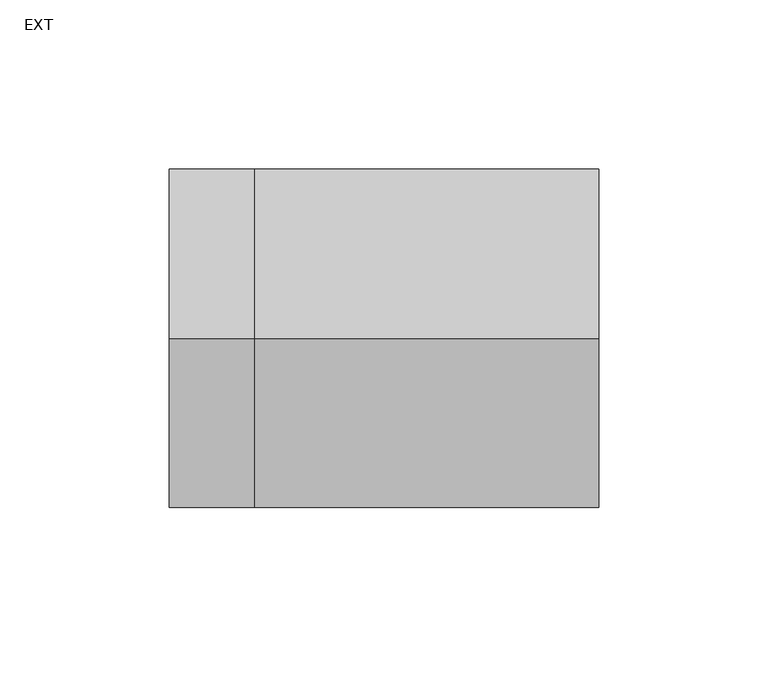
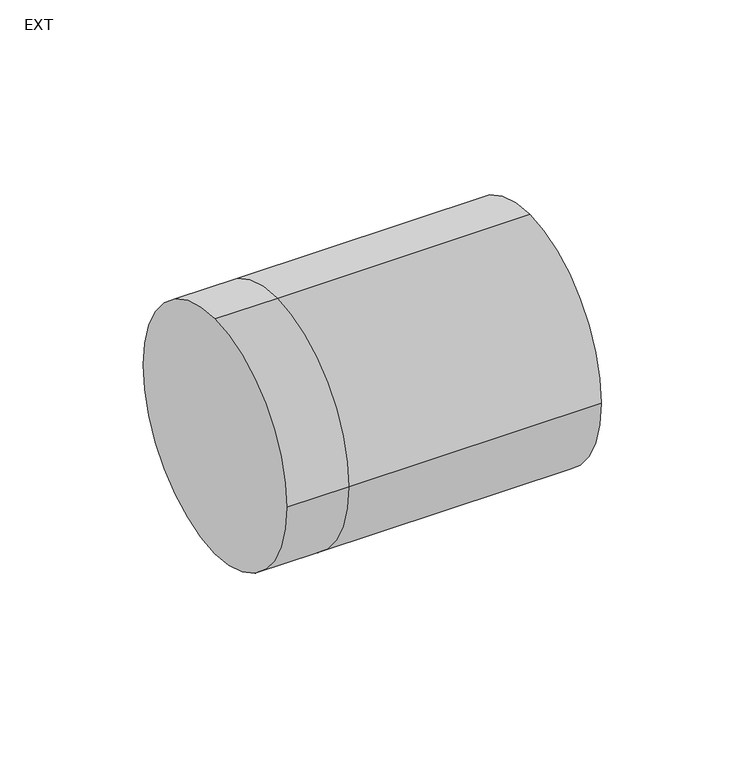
"""IFC4 building model written with IfcOpenShell, lengths in millimetres: duct fitting geometry, M_Toma de derivación redonda : EXT."""

from ifc_helpers import new_model, si_unit, frame, origin, place, context, project, spatial, circle_curve, source, transform, mapped, element, save
from ifc_brep_helpers import plane_surface, cylinder_surface, advanced_brep


def ext_4e2ed20d(model_context):
    return source(origin(), model_context, "Body", "AdvancedBrep", [
        advanced_brep(
        [(101.6, 0.0, 50.0), (101.6, -50.0, 0.0), (101.6, 0.0, -50.0), (101.6, 50.0, 0.0), (0.0, 50.0, 0.0), (0.0, 0.0, 50.0), (0.0, 0.0, -50.0), (0.0, -50.0, 0.0), (-25.1943006, 0.0, 50.0), (-25.1943006, 50.0, 0.0), (-25.1943006, 0.0, -50.0), (-25.1943006, -50.0, 0.0)],
        [
            (0, 1, circle_curve(frame((101.6, 0.0, 0.0), z_axis=(1.0, 0.0, 0.0), x_axis=(0.0, 1.0, 0.0)), 50.0)),
            (1, 2, circle_curve(frame((101.6, 0.0, 0.0), z_axis=(1.0, 0.0, 0.0), x_axis=(0.0, 1.0, 0.0)), 50.0)),
            (2, 3, circle_curve(frame((101.6, 0.0, 0.0), z_axis=(1.0, 0.0, 0.0), x_axis=(0.0, 1.0, 0.0)), 50.0)),
            (3, 0, circle_curve(frame((101.6, 0.0, 0.0), z_axis=(1.0, 0.0, 0.0), x_axis=(0.0, 1.0, 0.0)), 50.0)),
            (3, 4),
            (4, 5, circle_curve(frame((0.0, 0.0, 0.0), z_axis=(1.0, 0.0, 0.0), x_axis=(0.0, 1.0, 0.0)), 50.0)),
            (5, 0),
            (2, 6),
            (6, 4, circle_curve(frame((0.0, 0.0, 0.0), z_axis=(1.0, 0.0, 0.0), x_axis=(0.0, 1.0, 0.0)), 50.0)),
            (1, 7),
            (7, 6, circle_curve(frame((0.0, 0.0, 0.0), z_axis=(1.0, 0.0, 0.0), x_axis=(0.0, 1.0, 0.0)), 50.0)),
            (5, 7, circle_curve(frame((0.0, 0.0, 0.0), z_axis=(1.0, 0.0, 0.0), x_axis=(0.0, 1.0, 0.0)), 50.0)),
            (8, 9, circle_curve(frame((-25.1943006, 0.0, 0.0), z_axis=(-1.0, 0.0, 0.0), x_axis=(0.0, 1.0, 0.0)), 50.0)),
            (9, 10, circle_curve(frame((-25.1943006, 0.0, 0.0), z_axis=(-1.0, 0.0, 0.0), x_axis=(0.0, 1.0, 0.0)), 50.0)),
            (10, 11, circle_curve(frame((-25.1943006, 0.0, 0.0), z_axis=(-1.0, 0.0, 0.0), x_axis=(0.0, 1.0, 0.0)), 50.0)),
            (11, 8, circle_curve(frame((-25.1943006, 0.0, 0.0), z_axis=(-1.0, 0.0, 0.0), x_axis=(0.0, 1.0, 0.0)), 50.0)),
            (8, 5),
            (4, 9),
            (6, 10),
            (7, 11),
        ],
        [
            plane_surface(frame((101.6, 0.0, 0.0), z_axis=(1.0, 0.0, 0.0), x_axis=(0.0, 0.0, 1.0))),
            cylinder_surface(frame((0.0, 0.0, 0.0), z_axis=(-1.0, 0.0, 0.0), x_axis=(0.0, 1.0, 0.0)), 50.0),
            plane_surface(frame((-25.1943006, 0.0, 0.0), z_axis=(-1.0, 0.0, 0.0), x_axis=(0.0, 0.0, 1.0))),
            cylinder_surface(frame((-25.1943006, 0.0, 0.0), z_axis=(-1.0, 0.0, 0.0), x_axis=(0.0, 1.0, 0.0)), 50.0),
        ],
        [
            (0, [[1, 2, 3, 4]]),
            (1, [[-4, 5, 6, 7]]),
            (1, [[-3, 8, 9, -5]]),
            (1, [[-2, 10, 11, -8]]),
            (1, [[-1, -7, 12, -10]]),
            (2, [[13, 14, 15, 16]]),
            (3, [[-13, 17, -6, 18]]),
            (3, [[-14, -18, -9, 19]]),
            (3, [[-15, -19, -11, 20]]),
            (3, [[-16, -20, -12, -17]]),
        ],
    ),
    ])


if __name__ == "__main__":
    model = new_model("IFC4")
    model_context = context("Model", 3, world=origin())
    ifc_project = project(units=[si_unit("LENGTHUNIT", "METRE", prefix="MILLI")], contexts=[model_context])
    site = spatial("IfcSite", under=ifc_project)
    building = spatial("IfcBuilding", under=site)
    placement = place(None, origin())
    ext_shape = ext_4e2ed20d(model_context)
    element("IfcDuctFitting", 1, ObjectType="M_Toma de derivación redonda : EXT", at=placement, inside=building, context=model_context, shape_type="MappedRepresentation", body=[
        mapped(ext_shape, transform((0.0, 0.0, 0.0), x_axis=(1.0, 0.0, 0.0), y_axis=(0.0, 1.0, 0.0), z_axis=(0.0, 0.0, 1.0))),
    ])
    save(model, "model.ifc")
